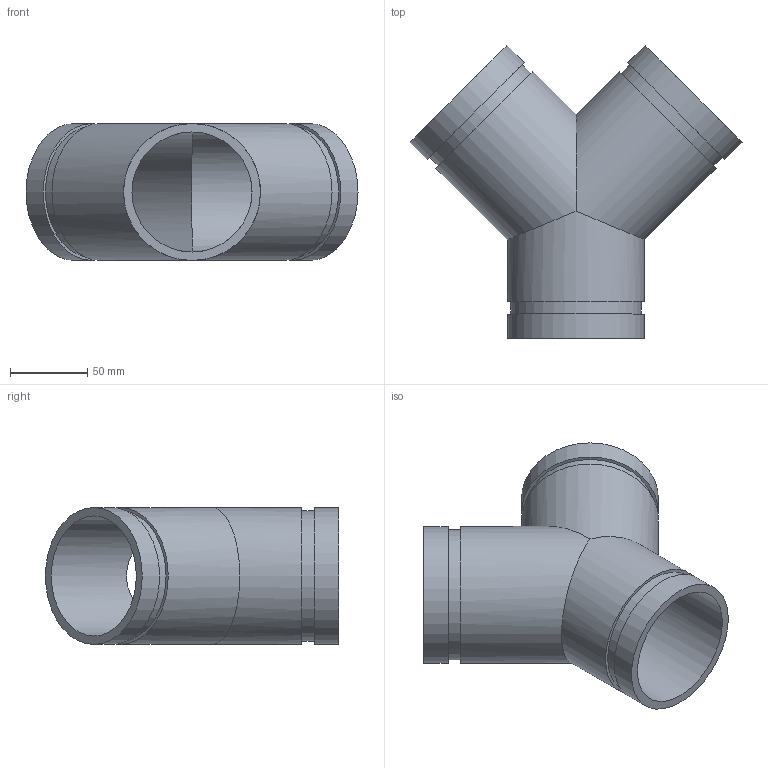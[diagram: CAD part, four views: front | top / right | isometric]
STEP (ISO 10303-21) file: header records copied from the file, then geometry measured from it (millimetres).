
FILE_DESCRIPTION(/* description */ ('This is default description.','CAx-IF Rec.Pracs.---Representation and Presentation of Product Manufacturing Information (PMI)---4.0---2014-10-13'),/* implementation_level */ '2;1');
FILE_NAME(/* name */ 'C:\Users\kkamble\AppData\Roaming\Autodesk\ApplicationPlugins\Back Up\Victaulic_IPS-Tee- Wye_ No 33 SWS (OGS)\Victaulic_IPS-Tee- Wye_ No 33 SWS (OGS)_3.stp',/* time_stamp */ '2020-09-16T22:08:04+06:00',/* author */ ('cgray'),/* organization */ ('Victaulic'),/* preprocessor_version */ 'ST-DEVELOPER v17.2',/* originating_system */ 'Autodesk Inventor 2019',/* authorisation */ '');
FILE_SCHEMA (('AP242_MANAGED_MODEL_BASED_3D_ENGINEERING_MIM_LF { 1 0 10303 442 1 1 4 }'));
Length unit declared in the file: inch
Products named in the file (1): 33 SWS-03.0
Bounding box: 215.53 x 190.31 x 88.9 mm (x, y, z)
Volume: 346286.4 mm3; surface area: 138127 mm2
Topology: 1 solids, 1 shells, 21 faces, 48 edges, 34 vertices
Faces by surface type: cylinder 12, plane 9
Full cylindrical faces by diameter (mm): 77.927 x3, 84.938 x3, 88.9 x6
Entity records: 787 total; most frequent: DIRECTION 154, CARTESIAN_POINT 121, ORIENTED_EDGE 96, AXIS2_PLACEMENT_3D 71, EDGE_CURVE 48, VERTEX_POINT 34, EDGE_LOOP 30, CIRCLE 26
